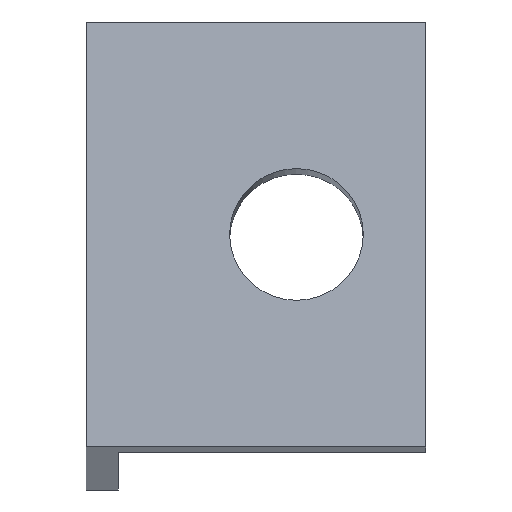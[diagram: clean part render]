
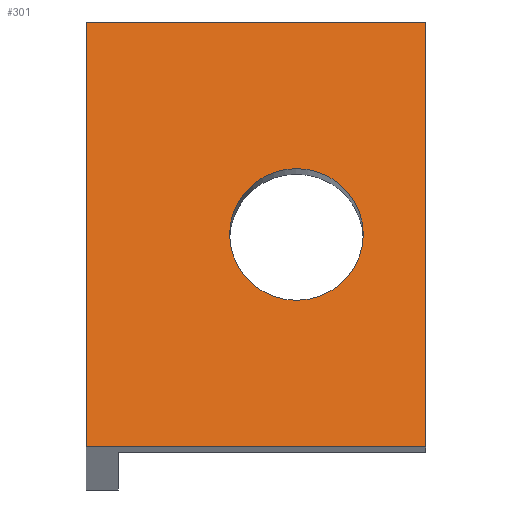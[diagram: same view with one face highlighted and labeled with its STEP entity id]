
A CAD part, front view. The second image highlights one B-rep face of the part: STEP entity #301.
In plain terms, the highlighted planar face has unit normal (0, -0.985, 0.174).
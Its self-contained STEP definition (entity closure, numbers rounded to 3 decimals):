
#53=CARTESIAN_POINT('',(-246.5,-54.267,237.322));
#54=VERTEX_POINT('',#53);
#61=CARTESIAN_POINT('',(-278.,-54.267,237.322));
#62=VERTEX_POINT('',#61);
#63=CARTESIAN_POINT('',(-278.,-54.267,237.322));
#64=DIRECTION('',(1.0,0.0,0.0));
#65=VECTOR('',#64,1.);
#66=LINE('',#63,#65);
#67=EDGE_CURVE('',#62,#54,#66,.T.);
#144=CARTESIAN_POINT('',(-278.,-47.321,276.715));
#145=VERTEX_POINT('',#144);
#152=CARTESIAN_POINT('',(-246.5,-47.321,276.715));
#153=VERTEX_POINT('',#152);
#154=CARTESIAN_POINT('',(-246.5,-47.321,276.715));
#155=DIRECTION('',(-1.0,0.,0.));
#156=VECTOR('',#155,1.);
#157=LINE('',#154,#156);
#158=EDGE_CURVE('',#153,#145,#157,.T.);
#190=CARTESIAN_POINT('',(-278.,-47.321,276.715));
#191=DIRECTION('',(0.,-0.174,-0.985));
#192=VECTOR('',#191,1.);
#193=LINE('',#190,#192);
#194=EDGE_CURVE('',#145,#62,#193,.T.);
#246=CARTESIAN_POINT('',(-246.5,-54.267,237.322));
#247=DIRECTION('',(0.,0.174,0.985));
#248=VECTOR('',#247,1.);
#249=LINE('',#246,#248);
#250=EDGE_CURVE('',#54,#153,#249,.T.);
#279=CARTESIAN_POINT('',(-278.,-54.267,237.322));
#280=DIRECTION('',(0.0,-0.985,0.174));
#281=DIRECTION('',(1.0,0.0,0.0));
#282=AXIS2_PLACEMENT_3D('',#279,#280,#281);
#283=PLANE('',#282);
#284=ORIENTED_EDGE('',*,*,#67,.T.);
#285=ORIENTED_EDGE('',*,*,#250,.T.);
#286=ORIENTED_EDGE('',*,*,#158,.T.);
#287=ORIENTED_EDGE('',*,*,#194,.T.);
#288=EDGE_LOOP('',(#284,#285,#286,#287));
#289=FACE_OUTER_BOUND('',#288,.T.);
#290=CARTESIAN_POINT('',(-252.3,-50.794,257.019));
#291=VERTEX_POINT('',#290);
#292=CARTESIAN_POINT('',(-258.5,-50.794,257.019));
#293=DIRECTION('',(0.0,-0.985,0.174));
#294=DIRECTION('',(1.0,0.0,0.0));
#295=AXIS2_PLACEMENT_3D('',#292,#293,#294);
#296=CIRCLE('',#295,6.2);
#297=EDGE_CURVE('',#291,#291,#296,.T.);
#298=ORIENTED_EDGE('',*,*,#297,.F.);
#299=EDGE_LOOP('',(#298));
#300=FACE_BOUND('',#299,.T.);
#301=ADVANCED_FACE('',(#289,#300),#283,.T.);
